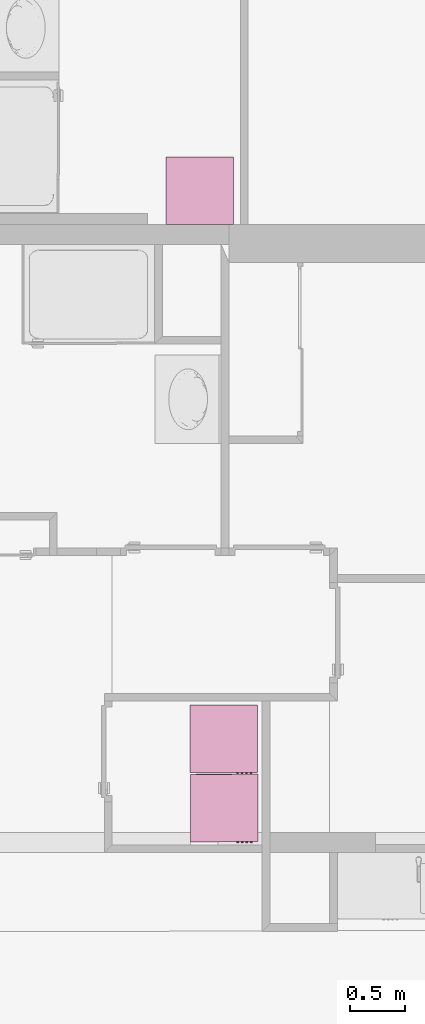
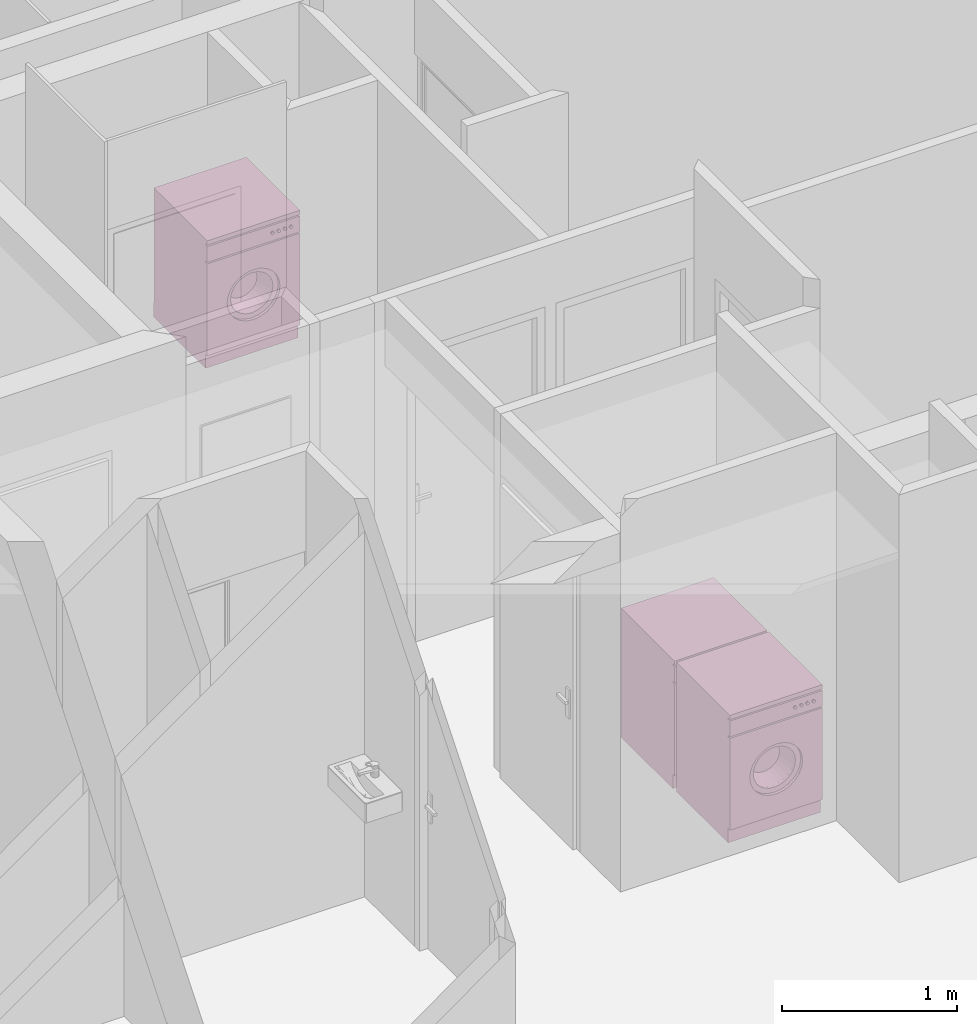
# One storey, part 131 of 171: 3 furnishings.
"""IFC2X3 building model written with IfcOpenShell, lengths in millimetres."""

from ifc_helpers import new_model, entity, si_unit, converted_unit, derived_unit, money_unit, direction, frame, origin_with_axes, place, context, subcontext, project, spatial, open_shell, faceted_brep, surface_model, source, transform, mapped, type_object, element, save


model = new_model("IFC2X3")

# Units and contexts
model_context = context("Model", 3, precision=0.01, world=origin_with_axes(), true_north=direction((0.0, 1.0)))
body_context = subcontext(model_context, "Body", "Model", "MODEL_VIEW")
ifc_project = project(units=[si_unit("LENGTHUNIT", "METRE", prefix="MILLI"), si_unit("AREAUNIT", "SQUARE_METRE"), si_unit("VOLUMEUNIT", "CUBIC_METRE"), converted_unit("PLANEANGLEUNIT", "DEGREE", entity("IfcPlaneAngleMeasure", 0.0174532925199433), si_unit("PLANEANGLEUNIT", "RADIAN"), dimensions=[0, 0, 0, 0, 0, 0, 0]), money_unit("USD"), converted_unit("TIMEUNIT", "Year", entity("IfcTimeMeasure", 31557600.0), si_unit("TIMEUNIT", "SECOND"), dimensions=[0, 0, 1, 0, 0, 0, 0]), si_unit("MASSUNIT", "GRAM", prefix="KILO"), si_unit("THERMODYNAMICTEMPERATUREUNIT", "DEGREE_CELSIUS"), si_unit("LUMINOUSINTENSITYUNIT", "LUMEN"), si_unit("ENERGYUNIT", "JOULE", prefix="MEGA"), derived_unit("THERMALCONDUCTANCEUNIT", [(si_unit("POWERUNIT", "WATT"), 1), (si_unit("LENGTHUNIT", "METRE"), -1), (si_unit("THERMODYNAMICTEMPERATUREUNIT", "KELVIN"), -1)]), derived_unit("SPECIFICHEATCAPACITYUNIT", [(si_unit("ENERGYUNIT", "JOULE"), 1), (si_unit("MASSUNIT", "GRAM", prefix="KILO"), -1), (si_unit("THERMODYNAMICTEMPERATUREUNIT", "KELVIN"), -1)]), derived_unit("MASSDENSITYUNIT", [(si_unit("MASSUNIT", "GRAM", prefix="KILO"), 1), (si_unit("VOLUMEUNIT", "CUBIC_METRE"), -1)])], contexts=[model_context])

# Site, building, storey
site_placement = place(None, origin_with_axes())
site = spatial("IfcSite", under=ifc_project, at=site_placement, Name="Site", CompositionType="ELEMENT")
building_placement = place(site_placement, origin_with_axes())
building = spatial("IfcBuilding", under=site, at=building_placement, Name="Bâtiment", CompositionType="ELEMENT")
storey_placement = place(building_placement, frame((0.0, 0.0, 3000.0), z_axis=(0.0, 0.0, 1.0), x_axis=(1.0, 0.0, 0.0)))
storey = spatial("IfcBuildingStorey", under=building, at=storey_placement, Name="rdc", CompositionType="ELEMENT", Elevation=3000.0)

# Furnishings
furnishing_element_type = type_object("IfcFurnishingElementType", Name="Machine à laver")
shared_shape = source(origin_with_axes(), body_context, "Body", "SurfaceModel", [
    faceted_brep([(0.0, 20.33333333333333, 100.0), (0.0, 0.0, 100.0), (-610.0, 0.0, 100.0), (-610.0, 20.33333333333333, 100.0), (0.0, 20.33333333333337, 740.0), (0.0, 0.0, 740.0), (-610.0, 0.0, 740.0), (-479.2857142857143, 0.0, 420.0000000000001), (-473.3470725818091, 0.0, 465.1084621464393), (-455.935856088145, 0.0, 507.1428571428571), (-428.2386104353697, 0.0, 543.2386104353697), (-392.1428571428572, 0.0, 570.935856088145), (-350.1084621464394, 0.0, 588.347072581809), (-305.0000000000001, 0.0, 594.2857142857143), (-259.8915378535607, 0.0, 588.347072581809), (-217.8571428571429, 0.0, 570.9358560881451), (-181.7613895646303, 0.0, 543.2386104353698), (-154.0641439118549, 0.0, 507.1428571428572), (-136.6529274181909, 0.0, 465.1084621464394), (-130.7142857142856, 0.0, 420.0000000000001), (-136.6529274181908, 0.0, 374.8915378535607), (-154.0641439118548, 0.0, 332.8571428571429), (-181.7613895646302, 0.0, 296.7613895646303), (-217.8571428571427, 0.0, 269.064143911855), (-259.8915378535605, 0.0, 251.6529274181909), (-304.9999999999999, 0.0, 245.7142857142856), (-350.1084621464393, 0.0, 251.6529274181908), (-392.1428571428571, 0.0, 269.0641439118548), (-428.2386104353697, 0.0, 296.7613895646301), (-455.935856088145, 0.0, 332.8571428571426), (-473.3470725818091, 0.0, 374.8915378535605), (-610.0, 20.33333333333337, 740.0), (-479.2857142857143, 20.33333333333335, 420.0000000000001), (-473.3470725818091, 20.33333333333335, 374.8915378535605), (-455.935856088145, 20.33333333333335, 332.8571428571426), (-428.2386104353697, 20.33333333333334, 296.7613895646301), (-392.1428571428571, 20.33333333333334, 269.0641439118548), (-350.1084621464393, 20.33333333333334, 251.6529274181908), (-304.9999999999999, 20.33333333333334, 245.7142857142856), (-259.8915378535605, 20.33333333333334, 251.6529274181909), (-217.8571428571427, 20.33333333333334, 269.064143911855), (-181.7613895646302, 20.33333333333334, 296.7613895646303), (-154.0641439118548, 20.33333333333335, 332.8571428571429), (-136.6529274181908, 20.33333333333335, 374.8915378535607), (-130.7142857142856, 20.33333333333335, 420.0000000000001), (-136.6529274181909, 20.33333333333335, 465.1084621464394), (-154.0641439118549, 20.33333333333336, 507.1428571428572), (-181.7613895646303, 20.33333333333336, 543.2386104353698), (-217.8571428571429, 20.33333333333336, 570.9358560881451), (-259.8915378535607, 20.33333333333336, 588.347072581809), (-305.0000000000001, 20.33333333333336, 594.2857142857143), (-350.1084621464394, 20.33333333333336, 588.347072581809), (-392.1428571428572, 20.33333333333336, 570.935856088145), (-428.2386104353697, 20.33333333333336, 543.2386104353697), (-455.935856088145, 20.33333333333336, 507.1428571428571), (-473.3470725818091, 20.33333333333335, 465.1084621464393)], [[[0, 1, 2, 3]], [[4, 5, 1, 0]], [[1, 5, 6, 2], [7, 8, 9, 10, 11, 12, 13, 14, 15, 16, 17, 18, 19, 20, 21, 22, 23, 24, 25, 26, 27, 28, 29, 30]], [[3, 2, 6, 31]], [[0, 3, 31, 4], [32, 33, 34, 35, 36, 37, 38, 39, 40, 41, 42, 43, 44, 45, 46, 47, 48, 49, 50, 51, 52, 53, 54, 55]], [[31, 6, 5, 4]], [[55, 8, 7, 32]], [[54, 9, 8, 55]], [[53, 10, 9, 54]], [[52, 11, 10, 53]], [[51, 12, 11, 52]], [[50, 13, 12, 51]], [[49, 14, 13, 50]], [[48, 15, 14, 49]], [[47, 16, 15, 48]], [[46, 17, 16, 47]], [[45, 18, 17, 46]], [[44, 19, 18, 45]], [[43, 20, 19, 44]], [[42, 21, 20, 43]], [[41, 22, 21, 42]], [[40, 23, 22, 41]], [[39, 24, 23, 40]], [[38, 25, 24, 39]], [[37, 26, 25, 38]], [[36, 27, 26, 37]], [[35, 28, 27, 36]], [[34, 29, 28, 35]], [[33, 30, 29, 34]], [[32, 7, 30, 33]]]),
    faceted_brep([(-479.2857142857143, 40.66666666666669, 420.0000000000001), (-479.2857142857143, 20.33333333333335, 420.0000000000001), (-473.3470725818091, 20.33333333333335, 465.1084621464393), (-473.3470725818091, 40.66666666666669, 465.1084621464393), (-473.3470725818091, 40.66666666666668, 374.8915378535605), (-473.3470725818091, 20.33333333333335, 374.8915378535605), (-455.935856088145, 20.33333333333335, 332.8571428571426), (-428.2386104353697, 20.33333333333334, 296.7613895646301), (-392.1428571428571, 20.33333333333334, 269.0641439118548), (-350.1084621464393, 20.33333333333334, 251.6529274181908), (-304.9999999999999, 20.33333333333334, 245.7142857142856), (-259.8915378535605, 20.33333333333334, 251.6529274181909), (-217.8571428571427, 20.33333333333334, 269.064143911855), (-181.7613895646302, 20.33333333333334, 296.7613895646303), (-154.0641439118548, 20.33333333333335, 332.8571428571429), (-136.6529274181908, 20.33333333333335, 374.8915378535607), (-130.7142857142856, 20.33333333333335, 420.0000000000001), (-136.6529274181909, 20.33333333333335, 465.1084621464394), (-154.0641439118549, 20.33333333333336, 507.1428571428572), (-181.7613895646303, 20.33333333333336, 543.2386104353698), (-217.8571428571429, 20.33333333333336, 570.9358560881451), (-259.8915378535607, 20.33333333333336, 588.347072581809), (-305.0000000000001, 20.33333333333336, 594.2857142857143), (-350.1084621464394, 20.33333333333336, 588.347072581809), (-392.1428571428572, 20.33333333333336, 570.935856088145), (-428.2386104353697, 20.33333333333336, 543.2386104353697), (-455.935856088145, 20.33333333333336, 507.1428571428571), (-444.4285714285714, 20.33333333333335, 420.0000000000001), (-439.6776580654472, 20.33333333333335, 456.0867697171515), (-425.748684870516, 20.33333333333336, 489.7142857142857), (-403.5908883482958, 20.33333333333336, 518.5908883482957), (-374.7142857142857, 20.33333333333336, 540.748684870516), (-341.0867697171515, 20.33333333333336, 554.6776580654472), (-305.0000000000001, 20.33333333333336, 559.4285714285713), (-268.9132302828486, 20.33333333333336, 554.6776580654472), (-235.2857142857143, 20.33333333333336, 540.7486848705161), (-206.4091116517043, 20.33333333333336, 518.5908883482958), (-184.251315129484, 20.33333333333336, 489.7142857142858), (-170.3223419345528, 20.33333333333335, 456.0867697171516), (-165.5714285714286, 20.33333333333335, 420.0000000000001), (-170.3223419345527, 20.33333333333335, 383.9132302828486), (-184.2513151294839, 20.33333333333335, 350.2857142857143), (-206.4091116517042, 20.33333333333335, 321.4091116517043), (-235.2857142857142, 20.33333333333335, 299.251315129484), (-268.9132302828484, 20.33333333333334, 285.3223419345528), (-304.9999999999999, 20.33333333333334, 280.5714285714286), (-341.0867697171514, 20.33333333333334, 285.3223419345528), (-374.7142857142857, 20.33333333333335, 299.2513151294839), (-403.5908883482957, 20.33333333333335, 321.4091116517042), (-425.748684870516, 20.33333333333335, 350.2857142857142), (-439.6776580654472, 20.33333333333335, 383.9132302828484), (-455.935856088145, 40.66666666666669, 507.1428571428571), (-428.2386104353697, 40.66666666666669, 543.2386104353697), (-392.1428571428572, 40.66666666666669, 570.935856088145), (-350.1084621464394, 40.66666666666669, 588.347072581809), (-305.0000000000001, 40.66666666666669, 594.2857142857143), (-259.8915378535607, 40.66666666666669, 588.347072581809), (-217.8571428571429, 40.66666666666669, 570.9358560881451), (-181.7613895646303, 40.66666666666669, 543.2386104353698), (-154.0641439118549, 40.66666666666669, 507.1428571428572), (-136.6529274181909, 40.66666666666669, 465.1084621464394), (-130.7142857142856, 40.66666666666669, 420.0000000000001), (-136.6529274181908, 40.66666666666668, 374.8915378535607), (-154.0641439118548, 40.66666666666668, 332.8571428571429), (-181.7613895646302, 40.66666666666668, 296.7613895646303), (-217.8571428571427, 40.66666666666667, 269.064143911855), (-259.8915378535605, 40.66666666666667, 251.6529274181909), (-304.9999999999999, 40.66666666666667, 245.7142857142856), (-350.1084621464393, 40.66666666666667, 251.6529274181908), (-392.1428571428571, 40.66666666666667, 269.0641439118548), (-428.2386104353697, 40.66666666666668, 296.7613895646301), (-455.935856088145, 40.66666666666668, 332.8571428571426), (-444.4285714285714, 40.66666666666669, 420.0000000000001), (-439.6776580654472, 40.66666666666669, 383.9132302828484), (-425.748684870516, 40.66666666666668, 350.2857142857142), (-403.5908883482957, 40.66666666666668, 321.4091116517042), (-374.7142857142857, 40.66666666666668, 299.2513151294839), (-341.0867697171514, 40.66666666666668, 285.3223419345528), (-304.9999999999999, 40.66666666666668, 280.5714285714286), (-268.9132302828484, 40.66666666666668, 285.3223419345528), (-235.2857142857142, 40.66666666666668, 299.251315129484), (-206.4091116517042, 40.66666666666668, 321.4091116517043), (-184.2513151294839, 40.66666666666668, 350.2857142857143), (-170.3223419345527, 40.66666666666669, 383.9132302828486), (-165.5714285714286, 40.66666666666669, 420.0000000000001), (-170.3223419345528, 40.66666666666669, 456.0867697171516), (-184.251315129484, 40.66666666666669, 489.7142857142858), (-206.4091116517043, 40.66666666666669, 518.5908883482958), (-235.2857142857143, 40.66666666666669, 540.7486848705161), (-268.9132302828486, 40.66666666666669, 554.6776580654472), (-305.0000000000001, 40.66666666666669, 559.4285714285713), (-341.0867697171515, 40.66666666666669, 554.6776580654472), (-374.7142857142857, 40.66666666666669, 540.748684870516), (-403.5908883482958, 40.66666666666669, 518.5908883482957), (-425.748684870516, 40.66666666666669, 489.7142857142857), (-439.6776580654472, 40.66666666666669, 456.0867697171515)], [[[0, 1, 2, 3]], [[4, 5, 1, 0]], [[1, 5, 6, 7, 8, 9, 10, 11, 12, 13, 14, 15, 16, 17, 18, 19, 20, 21, 22, 23, 24, 25, 26, 2], [27, 28, 29, 30, 31, 32, 33, 34, 35, 36, 37, 38, 39, 40, 41, 42, 43, 44, 45, 46, 47, 48, 49, 50]], [[3, 2, 26, 51]], [[0, 3, 51, 52, 53, 54, 55, 56, 57, 58, 59, 60, 61, 62, 63, 64, 65, 66, 67, 68, 69, 70, 71, 4], [72, 73, 74, 75, 76, 77, 78, 79, 80, 81, 82, 83, 84, 85, 86, 87, 88, 89, 90, 91, 92, 93, 94, 95]], [[71, 6, 5, 4]], [[70, 7, 6, 71]], [[69, 8, 7, 70]], [[68, 9, 8, 69]], [[67, 10, 9, 68]], [[66, 11, 10, 67]], [[65, 12, 11, 66]], [[64, 13, 12, 65]], [[63, 14, 13, 64]], [[62, 15, 14, 63]], [[61, 16, 15, 62]], [[60, 17, 16, 61]], [[59, 18, 17, 60]], [[58, 19, 18, 59]], [[57, 20, 19, 58]], [[56, 21, 20, 57]], [[55, 22, 21, 56]], [[54, 23, 22, 55]], [[53, 24, 23, 54]], [[52, 25, 24, 53]], [[51, 26, 25, 52]], [[95, 28, 27, 72]], [[94, 29, 28, 95]], [[93, 30, 29, 94]], [[92, 31, 30, 93]], [[91, 32, 31, 92]], [[90, 33, 32, 91]], [[89, 34, 33, 90]], [[88, 35, 34, 89]], [[87, 36, 35, 88]], [[86, 37, 36, 87]], [[85, 38, 37, 86]], [[84, 39, 38, 85]], [[83, 40, 39, 84]], [[82, 41, 40, 83]], [[81, 42, 41, 82]], [[80, 43, 42, 81]], [[79, 44, 43, 80]], [[78, 45, 44, 79]], [[77, 46, 45, 78]], [[76, 47, 46, 77]], [[75, 48, 47, 76]], [[74, 49, 48, 75]], [[73, 50, 49, 74]], [[72, 27, 50, 73]]]),
    surface_model("IfcShellBasedSurfaceModel", [(-268.9132302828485, 40.6666666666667, 554.6776580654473), (-277.9349227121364, 142.3333333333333, 521.0082435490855), (-305.0, 142.3333333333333, 524.5714285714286), (-305.0, 40.6666666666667, 559.4285714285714), (-235.2857142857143, 40.6666666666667, 540.7486848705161), (-252.7142857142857, 142.3333333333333, 510.5615136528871), (-231.0568337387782, 142.3333333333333, 493.9431662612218), (-214.438486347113, 142.3333333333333, 472.2857142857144), (-203.9917564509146, 142.3333333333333, 447.0650772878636), (-200.4285714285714, 142.3333333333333, 420.0000000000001), (-203.9917564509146, 142.3333333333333, 392.9349227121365), (-214.4384863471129, 142.3333333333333, 367.7142857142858), (-231.0568337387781, 142.3333333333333, 346.0568337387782), (-252.7142857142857, 142.3333333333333, 329.438486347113), (-277.9349227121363, 142.3333333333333, 318.9917564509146), (-304.9999999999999, 142.3333333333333, 315.4285714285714), (-332.0650772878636, 142.3333333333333, 318.9917564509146), (-357.2857142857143, 142.3333333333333, 329.438486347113), (-378.9431662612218, 142.3333333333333, 346.0568337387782), (-395.561513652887, 142.3333333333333, 367.7142857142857), (-406.0082435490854, 142.3333333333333, 392.9349227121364), (-409.5714285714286, 142.3333333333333, 420.0), (-406.0082435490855, 142.3333333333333, 447.0650772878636), (-395.5615136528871, 142.3333333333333, 472.2857142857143), (-378.9431662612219, 142.3333333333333, 493.9431662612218), (-357.2857142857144, 142.3333333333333, 510.5615136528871), (-332.0650772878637, 142.3333333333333, 521.0082435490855), (-341.0867697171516, 40.6666666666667, 554.6776580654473), (-206.4091116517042, 40.66666666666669, 518.5908883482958), (-184.251315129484, 40.66666666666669, 489.7142857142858), (-170.3223419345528, 40.66666666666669, 456.0867697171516), (-165.5714285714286, 40.66666666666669, 420.0000000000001), (-170.3223419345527, 40.66666666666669, 383.9132302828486), (-184.2513151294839, 40.66666666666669, 350.2857142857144), (-206.4091116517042, 40.66666666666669, 321.4091116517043), (-235.2857142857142, 40.66666666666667, 299.251315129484), (-268.9132302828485, 40.66666666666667, 285.3223419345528), (-304.9999999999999, 40.66666666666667, 280.5714285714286), (-341.0867697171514, 40.66666666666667, 285.3223419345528), (-374.7142857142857, 40.66666666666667, 299.2513151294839), (-403.5908883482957, 40.66666666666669, 321.4091116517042), (-425.748684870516, 40.66666666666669, 350.2857142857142), (-439.6776580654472, 40.66666666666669, 383.9132302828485), (-444.4285714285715, 40.66666666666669, 419.9999999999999), (-439.6776580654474, 40.66666666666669, 456.0867697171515), (-425.7486848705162, 40.66666666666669, 489.7142857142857), (-403.5908883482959, 40.66666666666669, 518.5908883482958), (-374.7142857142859, 40.6666666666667, 540.7486848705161)], [open_shell([[[0, 1, 2, 3]], [[4, 5, 1, 0]], [[2, 1, 5, 6, 7, 8, 9, 10, 11, 12, 13, 14, 15, 16, 17, 18, 19, 20, 21, 22, 23, 24, 25, 26]], [[3, 2, 26, 27]], [[28, 6, 5, 4]], [[29, 7, 6, 28]], [[30, 8, 7, 29]], [[31, 9, 8, 30]], [[32, 10, 9, 31]], [[33, 11, 10, 32]], [[34, 12, 11, 33]], [[35, 13, 12, 34]], [[36, 14, 13, 35]], [[37, 15, 14, 36]], [[38, 16, 15, 37]], [[39, 17, 16, 38]], [[40, 18, 17, 39]], [[41, 19, 18, 40]], [[42, 20, 19, 41]], [[43, 21, 20, 42]], [[44, 22, 21, 43]], [[45, 23, 22, 44]], [[46, 24, 23, 45]], [[47, 25, 24, 46]], [[27, 26, 25, 47]]])]),
    surface_model("IfcShellBasedSurfaceModel", [(0.0, 20.33333333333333, 100.0), (0.0, 610.0, 99.99999999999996), (0.0, 610.0, 870.0), (0.0, 20.33333333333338, 870.0)], [open_shell([[[0, 1, 2, 3]]])]),
    surface_model("IfcShellBasedSurfaceModel", [(-610.0, 20.33333333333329, 100.0), (-610.0, 610.0, 99.99999999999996), (-610.0, 610.0, 870.0), (-610.0, 20.33333333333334, 870.0)], [open_shell([[[0, 1, 2, 3]]])]),
    surface_model("IfcShellBasedSurfaceModel", [(0.0, 610.0, 100.0), (-610.0, 610.0, 100.0), (-610.0, 610.0, 870.0), (0.0, 610.0, 870.0)], [open_shell([[[0, 1, 2, 3]]])]),
    faceted_brep([(0.0, 20.33333333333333, 0.0), (0.0, 20.33333333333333, 100.0), (-610.0, 20.33333333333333, 100.0), (-610.0, 20.33333333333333, 0.0), (0.0, 610.3333333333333, 0.0), (0.0, 610.3333333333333, 100.0), (-610.0, 610.3333333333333, 100.0), (-610.0, 610.3333333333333, 0.0)], [[[0, 1, 2, 3]], [[4, 5, 1, 0]], [[1, 5, 6, 2]], [[3, 2, 6, 7]], [[0, 3, 7, 4]], [[7, 6, 5, 4]]]),
    faceted_brep([(0.0, 20.33333333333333, 750.0), (0.0, 0.0, 750.0), (-610.0, 0.0, 750.0), (-610.0, 20.33333333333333, 750.0), (0.0, 20.33333333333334, 860.0), (0.0, 0.0, 860.0), (-610.0, 0.0, 860.0), (-610.0, 20.33333333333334, 860.0)], [[[0, 1, 2, 3]], [[4, 5, 1, 0]], [[1, 5, 6, 2]], [[3, 2, 6, 7]], [[0, 3, 7, 4]], [[7, 6, 5, 4]]]),
    surface_model("IfcShellBasedSurfaceModel", [(0.0, 20.33333333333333, 739.8333333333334), (-610.0, 20.33333333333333, 739.8333333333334), (-610.0, 20.33333333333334, 869.8333333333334), (0.0, 20.33333333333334, 869.8333333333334)], [open_shell([[[0, 1, 2, 3]]])]),
    faceted_brep([(0.0, 0.0, 870.0), (0.0, 0.0, 900.0), (-610.0, 0.0, 900.0), (-610.0, 0.0, 870.0), (0.0, 610.0, 870.0), (0.0, 610.0, 900.0), (-610.0, 610.0, 900.0), (-610.0, 610.0, 870.0)], [[[0, 1, 2, 3]], [[4, 5, 1, 0]], [[1, 5, 6, 2]], [[3, 2, 6, 7]], [[0, 3, 7, 4]], [[7, 6, 5, 4]]]),
    faceted_brep([(-69.80459160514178, 0.0, 804.9166666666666), (-71.16666666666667, 0.0, 809.9999999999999), (-69.8045916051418, 0.0, 815.0833333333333), (-66.08333333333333, 0.0, 818.8045916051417), (-61.0, 0.0, 820.1666666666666), (-55.91666666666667, 0.0, 818.8045916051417), (-52.19540839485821, 0.0, 815.0833333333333), (-50.83333333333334, 0.0, 809.9999999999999), (-52.1954083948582, 0.0, 804.9166666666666), (-55.91666666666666, 0.0, 801.1954083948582), (-60.99999999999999, 0.0, 799.8333333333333), (-66.08333333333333, 0.0, 801.1954083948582), (-69.80459160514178, -10.16666666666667, 804.9166666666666), (-71.16666666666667, -10.16666666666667, 809.9999999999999), (-69.8045916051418, -10.16666666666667, 815.0833333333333), (-66.08333333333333, -10.16666666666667, 818.8045916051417), (-61.0, -10.16666666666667, 820.1666666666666), (-55.91666666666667, -10.16666666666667, 818.8045916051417), (-52.19540839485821, -10.16666666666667, 815.0833333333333), (-50.83333333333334, -10.16666666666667, 809.9999999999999), (-52.1954083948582, -10.16666666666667, 804.9166666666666), (-55.91666666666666, -10.16666666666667, 801.1954083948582), (-60.99999999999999, -10.16666666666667, 799.8333333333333), (-66.08333333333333, -10.16666666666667, 801.1954083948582)], [[[0, 1, 2, 3, 4, 5, 6, 7, 8, 9, 10, 11]], [[0, 12, 13, 1]], [[1, 13, 14, 2]], [[2, 14, 15, 3]], [[3, 15, 16, 4]], [[4, 16, 17, 5]], [[5, 17, 18, 6]], [[6, 18, 19, 7]], [[7, 19, 20, 8]], [[8, 20, 21, 9]], [[9, 21, 22, 10]], [[10, 22, 23, 11]], [[11, 23, 12, 0]], [[12, 23, 22, 21, 20, 19, 18, 17, 16, 15, 14, 13]]]),
    faceted_brep([(-110.4712582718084, 0.0, 804.9166666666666), (-111.8333333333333, 0.0, 809.9999999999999), (-110.4712582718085, 0.0, 815.0833333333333), (-106.75, 0.0, 818.8045916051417), (-101.6666666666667, 0.0, 820.1666666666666), (-96.58333333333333, 0.0, 818.8045916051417), (-92.86207506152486, 0.0, 815.0833333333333), (-91.49999999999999, 0.0, 809.9999999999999), (-92.86207506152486, 0.0, 804.9166666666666), (-96.58333333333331, 0.0, 801.1954083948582), (-101.6666666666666, 0.0, 799.8333333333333), (-106.75, 0.0, 801.1954083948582), (-110.4712582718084, -10.16666666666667, 804.9166666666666), (-111.8333333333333, -10.16666666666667, 809.9999999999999), (-110.4712582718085, -10.16666666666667, 815.0833333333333), (-106.75, -10.16666666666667, 818.8045916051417), (-101.6666666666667, -10.16666666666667, 820.1666666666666), (-96.58333333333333, -10.16666666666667, 818.8045916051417), (-92.86207506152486, -10.16666666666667, 815.0833333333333), (-91.49999999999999, -10.16666666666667, 809.9999999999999), (-92.86207506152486, -10.16666666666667, 804.9166666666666), (-96.58333333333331, -10.16666666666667, 801.1954083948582), (-101.6666666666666, -10.16666666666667, 799.8333333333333), (-106.75, -10.16666666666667, 801.1954083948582)], [[[0, 1, 2, 3, 4, 5, 6, 7, 8, 9, 10, 11]], [[0, 12, 13, 1]], [[1, 13, 14, 2]], [[2, 14, 15, 3]], [[3, 15, 16, 4]], [[4, 16, 17, 5]], [[5, 17, 18, 6]], [[6, 18, 19, 7]], [[7, 19, 20, 8]], [[8, 20, 21, 9]], [[9, 21, 22, 10]], [[10, 22, 23, 11]], [[11, 23, 12, 0]], [[12, 23, 22, 21, 20, 19, 18, 17, 16, 15, 14, 13]]]),
    faceted_brep([(-151.1379249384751, 0.0, 804.9166666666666), (-152.5, 0.0, 809.9999999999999), (-151.1379249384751, 0.0, 815.0833333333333), (-147.4166666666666, 0.0, 818.8045916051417), (-142.3333333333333, 0.0, 820.1666666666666), (-137.25, 0.0, 818.8045916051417), (-133.5287417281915, 0.0, 815.0833333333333), (-132.1666666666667, 0.0, 809.9999999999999), (-133.5287417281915, 0.0, 804.9166666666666), (-137.25, 0.0, 801.1954083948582), (-142.3333333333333, 0.0, 799.8333333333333), (-147.4166666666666, 0.0, 801.1954083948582), (-151.1379249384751, -10.16666666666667, 804.9166666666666), (-152.5, -10.16666666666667, 809.9999999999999), (-151.1379249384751, -10.16666666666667, 815.0833333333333), (-147.4166666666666, -10.16666666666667, 818.8045916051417), (-142.3333333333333, -10.16666666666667, 820.1666666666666), (-137.25, -10.16666666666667, 818.8045916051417), (-133.5287417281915, -10.16666666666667, 815.0833333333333), (-132.1666666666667, -10.16666666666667, 809.9999999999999), (-133.5287417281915, -10.16666666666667, 804.9166666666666), (-137.25, -10.16666666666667, 801.1954083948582), (-142.3333333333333, -10.16666666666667, 799.8333333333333), (-147.4166666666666, -10.16666666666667, 801.1954083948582)], [[[0, 1, 2, 3, 4, 5, 6, 7, 8, 9, 10, 11]], [[0, 12, 13, 1]], [[1, 13, 14, 2]], [[2, 14, 15, 3]], [[3, 15, 16, 4]], [[4, 16, 17, 5]], [[5, 17, 18, 6]], [[6, 18, 19, 7]], [[7, 19, 20, 8]], [[8, 20, 21, 9]], [[9, 21, 22, 10]], [[10, 22, 23, 11]], [[11, 23, 12, 0]], [[12, 23, 22, 21, 20, 19, 18, 17, 16, 15, 14, 13]]]),
    faceted_brep([(-191.8045916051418, 0.0, 804.9166666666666), (-193.1666666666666, 0.0, 809.9999999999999), (-191.8045916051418, 0.0, 815.0833333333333), (-188.0833333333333, 0.0, 818.8045916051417), (-183.0, 0.0, 820.1666666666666), (-177.9166666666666, 0.0, 818.8045916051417), (-174.1954083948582, 0.0, 815.0833333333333), (-172.8333333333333, 0.0, 809.9999999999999), (-174.1954083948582, 0.0, 804.9166666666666), (-177.9166666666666, 0.0, 801.1954083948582), (-183.0, 0.0, 799.8333333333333), (-188.0833333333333, 0.0, 801.1954083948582), (-191.8045916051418, -10.16666666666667, 804.9166666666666), (-193.1666666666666, -10.16666666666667, 809.9999999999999), (-191.8045916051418, -10.16666666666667, 815.0833333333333), (-188.0833333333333, -10.16666666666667, 818.8045916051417), (-183.0, -10.16666666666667, 820.1666666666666), (-177.9166666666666, -10.16666666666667, 818.8045916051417), (-174.1954083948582, -10.16666666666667, 815.0833333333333), (-172.8333333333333, -10.16666666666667, 809.9999999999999), (-174.1954083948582, -10.16666666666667, 804.9166666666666), (-177.9166666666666, -10.16666666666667, 801.1954083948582), (-183.0, -10.16666666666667, 799.8333333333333), (-188.0833333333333, -10.16666666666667, 801.1954083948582)], [[[0, 1, 2, 3, 4, 5, 6, 7, 8, 9, 10, 11]], [[0, 12, 13, 1]], [[1, 13, 14, 2]], [[2, 14, 15, 3]], [[3, 15, 16, 4]], [[4, 16, 17, 5]], [[5, 17, 18, 6]], [[6, 18, 19, 7]], [[7, 19, 20, 8]], [[8, 20, 21, 9]], [[9, 21, 22, 10]], [[10, 22, 23, 11]], [[11, 23, 12, 0]], [[12, 23, 22, 21, 20, 19, 18, 17, 16, 15, 14, 13]]]),
])
for number, where, z_axis, x_axis, name in (
    (1, (2228367.765197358, -646738.4413036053, 0.0), (0.0, 0.0, 1.0), (1.0, 0.0, 0.0), "Obj.-003"),
    (2, (2228590.349858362, -652315.7679726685, 0.0), (0.0, 0.0, 1.0), (0.9999994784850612, 0.00102128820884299, 0.0), "Obj.-003"),
    (3, (2228586.686987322, -651691.4166766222, 0.0), (0.0, 0.0, 1.0), (0.9999999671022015, 0.0002565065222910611, 0.0), "Obj.-003"),
):
    element("IfcFurnishingElement", number, at=place(storey_placement, frame(where, z_axis=z_axis, x_axis=x_axis)), inside=storey, type_object=furnishing_element_type, Name=name, context=body_context, shape_type="MappedRepresentation", body=[
        mapped(shared_shape, transform((0.0, 0.0, 0.0))),
    ])

save(model, "model.ifc")
